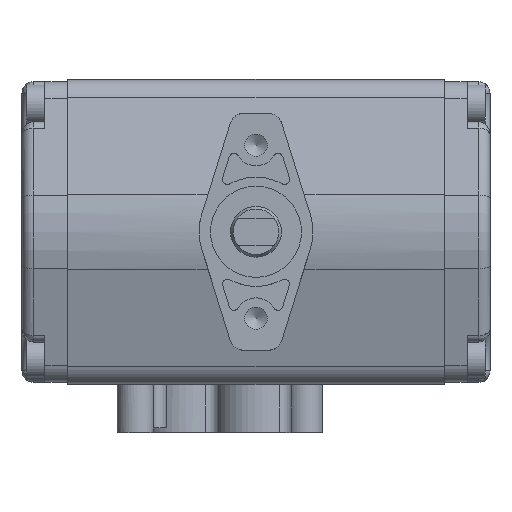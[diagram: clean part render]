
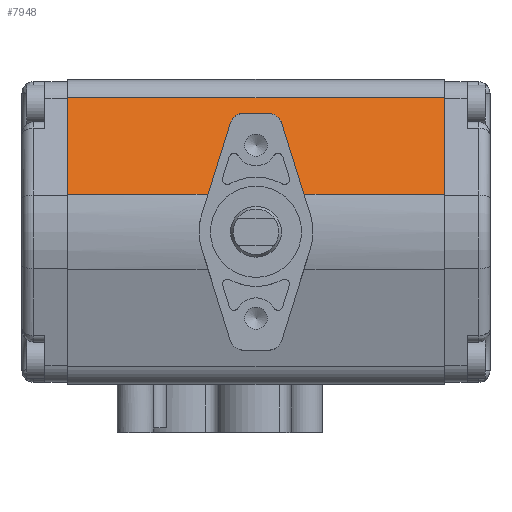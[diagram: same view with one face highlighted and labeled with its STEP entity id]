
A CAD part, top view. The second image highlights one B-rep face of the part: STEP entity #7948.
In plain terms, the highlighted planar face has unit normal (0, 0.274, 0.962).
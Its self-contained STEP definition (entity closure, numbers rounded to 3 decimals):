
#68=ELLIPSE('',#8703,3.119,3.);
#70=ELLIPSE('',#8709,3.119,3.);
#1258=FACE_OUTER_BOUND('',#1797,.T.);
#1797=EDGE_LOOP('',(#6929,#6930,#6931,#6932,#6933,#6934,#6935,#6936,#6937,
#6938));
#2373=LINE('',#15865,#2981);
#2382=LINE('',#15904,#2990);
#2386=LINE('',#15916,#2994);
#2402=LINE('',#15973,#3010);
#2403=LINE('',#15978,#3011);
#2404=LINE('',#15981,#3012);
#2405=LINE('',#15986,#3013);
#2407=LINE('',#15993,#3015);
#2981=VECTOR('',#10803,17.012);
#2990=VECTOR('',#10830,5.583);
#2994=VECTOR('',#10842,17.012);
#3010=VECTOR('',#10888,30.866);
#3011=VECTOR('',#10895,30.866);
#3012=VECTOR('',#10898,22.136);
#3013=VECTOR('',#10905,82.8);
#3015=VECTOR('',#10917,22.136);
#3679=VERTEX_POINT('',#15863);
#3680=VERTEX_POINT('',#15864);
#3686=VERTEX_POINT('',#15889);
#3691=VERTEX_POINT('',#15903);
#3693=VERTEX_POINT('',#15909);
#3695=VERTEX_POINT('',#15915);
#3711=VERTEX_POINT('',#15972);
#3712=VERTEX_POINT('',#15976);
#3713=VERTEX_POINT('',#15980);
#3714=VERTEX_POINT('',#15985);
#4740=EDGE_CURVE('',#3679,#3680,#2373,.T.);
#4748=EDGE_CURVE('',#3680,#3686,#68,.T.);
#4755=EDGE_CURVE('',#3686,#3691,#2382,.T.);
#4758=EDGE_CURVE('',#3691,#3693,#70,.T.);
#4761=EDGE_CURVE('',#3693,#3695,#2386,.T.);
#4785=EDGE_CURVE('',#3711,#3679,#2402,.T.);
#4788=EDGE_CURVE('',#3695,#3712,#2403,.T.);
#4789=EDGE_CURVE('',#3711,#3713,#2404,.T.);
#4792=EDGE_CURVE('',#3714,#3713,#2405,.T.);
#4796=EDGE_CURVE('',#3714,#3712,#2407,.T.);
#6929=ORIENTED_EDGE('',*,*,#4761,.T.);
#6930=ORIENTED_EDGE('',*,*,#4788,.T.);
#6931=ORIENTED_EDGE('',*,*,#4796,.F.);
#6932=ORIENTED_EDGE('',*,*,#4792,.T.);
#6933=ORIENTED_EDGE('',*,*,#4789,.F.);
#6934=ORIENTED_EDGE('',*,*,#4785,.T.);
#6935=ORIENTED_EDGE('',*,*,#4740,.T.);
#6936=ORIENTED_EDGE('',*,*,#4748,.T.);
#6937=ORIENTED_EDGE('',*,*,#4755,.T.);
#6938=ORIENTED_EDGE('',*,*,#4758,.T.);
#7193=PLANE('',#8738);
#7948=ADVANCED_FACE('',(#1258),#7193,.T.);
#8703=AXIS2_PLACEMENT_3D('',#15890,#10816,#10817);
#8709=AXIS2_PLACEMENT_3D('',#15910,#10835,#10836);
#8738=AXIS2_PLACEMENT_3D('',#15992,#10915,#10916);
#10803=DIRECTION('',(0.287,0.921,-0.262));
#10816=DIRECTION('center_axis',(0.,-0.274,-0.962));
#10817=DIRECTION('ref_axis',(0.,-0.962,0.274));
#10830=DIRECTION('',(1.,0.,0.));
#10835=DIRECTION('center_axis',(0.,-0.274,-0.962));
#10836=DIRECTION('ref_axis',(0.,-0.962,0.274));
#10842=DIRECTION('',(0.287,-0.921,0.262));
#10888=DIRECTION('',(1.,0.,0.));
#10895=DIRECTION('',(1.,0.,0.));
#10898=DIRECTION('',(0.,0.962,-0.274));
#10905=DIRECTION('',(-1.,0.,0.));
#10915=DIRECTION('center_axis',(0.,0.274,0.962));
#10916=DIRECTION('ref_axis',(0.,-0.962,0.274));
#10917=DIRECTION('',(0.,-0.962,0.274));
#15863=CARTESIAN_POINT('',(-10.534,8.217,110.853));
#15864=CARTESIAN_POINT('',(-5.656,23.891,106.389));
#15865=CARTESIAN_POINT('',(-7.888,16.72,108.431));
#15889=CARTESIAN_POINT('',(-2.792,26.,105.788));
#15890=CARTESIAN_POINT('Origin',(-2.792,23.,106.643));
#15903=CARTESIAN_POINT('',(2.792,26.,105.788));
#15904=CARTESIAN_POINT('',(-1.396,26.,105.788));
#15909=CARTESIAN_POINT('',(5.656,23.891,106.389));
#15910=CARTESIAN_POINT('Origin',(2.792,23.,106.643));
#15915=CARTESIAN_POINT('',(10.534,8.217,110.853));
#15916=CARTESIAN_POINT('',(4.965,26.114,105.756));
#15972=CARTESIAN_POINT('',(-41.4,8.217,110.853));
#15973=CARTESIAN_POINT('',(0.,8.217,110.853));
#15976=CARTESIAN_POINT('',(41.4,8.217,110.853));
#15978=CARTESIAN_POINT('',(0.,8.217,110.853));
#15980=CARTESIAN_POINT('',(-41.4,29.506,104.79));
#15981=CARTESIAN_POINT('',(-41.4,8.217,110.853));
#15985=CARTESIAN_POINT('',(41.4,29.506,104.79));
#15986=CARTESIAN_POINT('',(0.,29.506,104.79));
#15992=CARTESIAN_POINT('Origin',(0.,29.506,104.79));
#15993=CARTESIAN_POINT('',(41.4,8.217,110.853));
